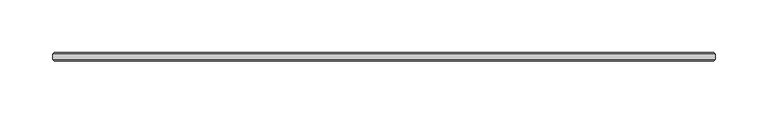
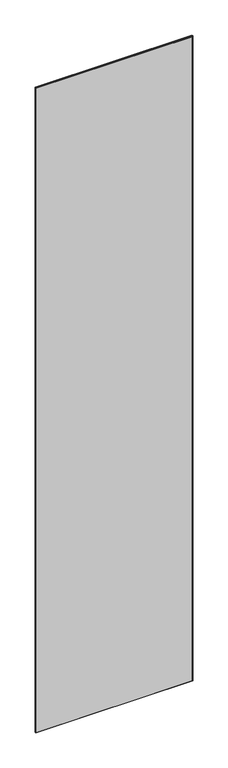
"""IFC4 building model written with IfcOpenShell, lengths in millimetres: plate geometry, 1-AMG-1-Панель одинарный витраж 8, 10 : Смещение 32 Толщина 8mm."""

import ifcopenshell
import ifcopenshell.guid

model = None  # the IFC model being written
_history = None  # IfcOwnerHistory: only IFC2X3 demands one
_inside = {}  # id of a spatial element -> (the spatial element, [elements in it])
_under = {}  # id of a project, library or spatial element -> (it, [spatial elements below it])
_declared = {}  # id of a project -> (the project, [libraries it declares])
_typed = {}  # id of a type object -> (the type object, [elements of that type])
_made_of = {}  # id of a material, layer set ... -> (it, [elements and type objects made of it])


def new_model(schema):
    """Start an empty IFC model of exactly this schema.

    Asked for "IFC4X3", IfcOpenShell would pick the latest addendum, in which some entities
    have other attributes; the version numbers below select the first issue.
    IFC2X3 requires an IfcOwnerHistory on every rooted entity: one is made here for all.
    """
    global model, _history
    if schema == "IFC4X3":
        model = ifcopenshell.file(schema_version=(4, 3, 0, 0))
    else:
        model = ifcopenshell.file(schema=schema)
    _inside.clear()
    _under.clear()
    _declared.clear()
    _typed.clear()
    _made_of.clear()
    _history = None
    if model.schema == "IFC2X3":
        org = make("IfcOrganization", Name="unknown")
        user = make(
            "IfcPersonAndOrganization",
            ThePerson=make("IfcPerson", FamilyName="unknown"),
            TheOrganization=org,
        )
        app = make(
            "IfcApplication",
            ApplicationDeveloper=org,
            Version="unknown",
            ApplicationFullName="unknown",
            ApplicationIdentifier="unknown",
        )
        _history = make(
            "IfcOwnerHistory",
            OwningUser=user,
            OwningApplication=app,
            ChangeAction="ADDED",
            CreationDate=0,
        )
    return model


def make(cls, **values):
    """One entity of the class cls with the attributes given. An attribute that is None is left unset."""
    return model.create_entity(
        cls, **{name: value for name, value in values.items() if value is not None}
    )


def rooted(cls, **values):
    """An entity with a GlobalId (a new one), such as an element, a storey or a relation."""
    return make(cls, GlobalId=ifcopenshell.guid.new(), OwnerHistory=_history, **values)


def si_unit(unit_type, name, prefix=None):
    """IfcSIUnit, for example si_unit("LENGTHUNIT", "METRE", prefix="MILLI")."""
    return make("IfcSIUnit", UnitType=unit_type, Prefix=prefix, Name=name)


def assignment(units):
    """IfcUnitAssignment: the units of a project."""
    return None if units is None else make("IfcUnitAssignment", Units=units)


def point(xyz):
    """IfcCartesianPoint."""
    return None if xyz is None else make("IfcCartesianPoint", Coordinates=xyz)


def direction(xyz):
    """IfcDirection."""
    return None if xyz is None else make("IfcDirection", DirectionRatios=xyz)


def frame(location, z_axis=None, x_axis=None):
    """IfcAxis2Placement3D, a coordinate frame: its origin and axes. An axis left out is left unset."""
    return make(
        "IfcAxis2Placement3D",
        Location=point(location),
        Axis=direction(z_axis),
        RefDirection=direction(x_axis),
    )


def origin():
    """The frame at (0, 0, 0) with its axes left unset."""
    return frame((0.0, 0.0, 0.0))


def place(relative_to, where):
    """IfcLocalPlacement: puts the frame where relative to a parent placement (None: the world)."""
    return make(
        "IfcLocalPlacement", PlacementRelTo=relative_to, RelativePlacement=where
    )


def context(
    kind, dimensions, precision=None, world=None, true_north=None, identifier=None
):
    """IfcGeometricRepresentationContext, for example the 3D "Model" context."""
    return make(
        "IfcGeometricRepresentationContext",
        ContextIdentifier=identifier,
        ContextType=kind,
        CoordinateSpaceDimension=dimensions,
        Precision=precision,
        WorldCoordinateSystem=world,
        TrueNorth=true_north,
    )


def project(units=None, contexts=None):
    """IfcProject with its units and contexts."""
    return rooted(
        "IfcProject",
        Name="project",
        RepresentationContexts=contexts,
        UnitsInContext=assignment(units),
    )


def spatial(cls, under=None, at=None, **own):
    """A site, building, storey or space (cls), placed at a placement, below another one or the project."""
    s = rooted(cls, ObjectPlacement=at, **own)
    if under is not None:
        _under.setdefault(under.id(), (under, []))[1].append(s)
    return s


def faces_of(points, faces, orient=None, outer=None):
    """IfcFace entities. A face is a list of loops; a loop is a list of indices into points, from 0.

    orient and outer hold one flag for each loop. By default every Orientation is true, the
    first loop of a face is its IfcFaceOuterBound and the others are IfcFaceBound.
    """
    made = []
    for i, loops in enumerate(faces):
        bounds = []
        for j, loop in enumerate(loops):
            is_outer = j == 0 if outer is None else outer[i][j]
            bounds.append(
                make(
                    "IfcFaceOuterBound" if is_outer else "IfcFaceBound",
                    Bound=make("IfcPolyLoop", Polygon=[points[k] for k in loop]),
                    Orientation=True if orient is None else orient[i][j],
                )
            )
        made.append(make("IfcFace", Bounds=bounds))
    return made


def faceted_brep(points, faces, orient=None, outer=None, voids=None):
    """IfcFacetedBrep: a solid bounded by flat faces; with voids (closed shells), ...WithVoids."""
    shared = [point(p) for p in points]
    hull = make("IfcClosedShell", CfsFaces=faces_of(shared, faces, orient, outer))
    if voids is None:
        return make("IfcFacetedBrep", Outer=hull)
    return make(
        "IfcFacetedBrepWithVoids",
        Outer=hull,
        Voids=[
            make(cls, CfsFaces=faces_of(shared, fs, o, b)) for cls, fs, o, b in voids
        ],
    )


def shape(context_of_items, identifier, shape_type, items):
    """IfcShapeRepresentation: the items that make up one representation, for example the "Body"."""
    return make(
        "IfcShapeRepresentation",
        ContextOfItems=context_of_items,
        RepresentationIdentifier=identifier,
        RepresentationType=shape_type,
        Items=items,
    )


def source(mapping_origin, context_of_items, identifier, shape_type, items):
    """IfcRepresentationMap: a shape defined once, which mapped items show again and again."""
    return make(
        "IfcRepresentationMap",
        MappingOrigin=mapping_origin,
        MappedRepresentation=shape(context_of_items, identifier, shape_type, items),
    )


def transform(
    local_origin,
    x_axis=None,
    y_axis=None,
    z_axis=None,
    scale=None,
    scale2=None,
    scale3=None,
    uniform=True,
):
    """IfcCartesianTransformationOperator3D, or its non-uniform kind. x_axis, y_axis, z_axis: its Axis1, 2, 3."""
    if uniform:
        return make(
            "IfcCartesianTransformationOperator3D",
            Axis1=direction(x_axis),
            Axis2=direction(y_axis),
            LocalOrigin=point(local_origin),
            Scale=scale,
            Axis3=direction(z_axis),
        )
    return make(
        "IfcCartesianTransformationOperator3DnonUniform",
        Axis1=direction(x_axis),
        Axis2=direction(y_axis),
        LocalOrigin=point(local_origin),
        Scale=scale,
        Axis3=direction(z_axis),
        Scale2=scale2,
        Scale3=scale3,
    )


def mapped(mapping_source, mapping_target):
    """IfcMappedItem: shows the shape of a source again, moved by a transform."""
    return make(
        "IfcMappedItem", MappingSource=mapping_source, MappingTarget=mapping_target
    )


def made_of(thing, what):
    """Note that an element or type object is made of a material, layer set ...; save() writes the relation."""
    if what is not None:
        _made_of.setdefault(what.id(), (what, []))[1].append(thing)
    return thing


def element(
    cls,
    number,
    at=None,
    inside=None,
    cuts=None,
    type_object=None,
    material=None,
    context=None,
    identifier="Body",
    shape_type=None,
    held_by="IfcProductDefinitionShape",
    body=None,
    shapes=None,
    **own,
):
    """One element of the class cls, such as IfcWall. Its Tag is "e" and its number.

    at: its placement. inside: the storey or other place that contains it. cuts: it is an
    opening in that element (IfcRelVoidsElement). A single representation is given by context,
    identifier, shape_type and body (its items); several are given by shapes. held_by: the class
    of the entity that holds the representations. save() writes the other relations.
    """
    e = rooted(cls, Tag="e%d" % number, ObjectPlacement=at, **own)
    if body is not None:
        shapes = [shape(context, identifier, shape_type, body)]
    if shapes is not None:
        e.Representation = make(held_by, Representations=shapes)
    if inside is not None:
        _inside.setdefault(inside.id(), (inside, []))[1].append(e)
    if cuts is not None:
        rooted(
            "IfcRelVoidsElement", RelatingBuildingElement=cuts, RelatedOpeningElement=e
        )
    if type_object is not None:
        _typed.setdefault(type_object.id(), (type_object, []))[1].append(e)
    return made_of(e, material)


def aggregate(whole, parts):
    """IfcRelAggregates: a whole, such as a stair, and the parts it consists of."""
    return rooted("IfcRelAggregates", RelatingObject=whole, RelatedObjects=parts)


def save(model, path):
    """Write the relations noted so far, then the file.

    IfcRelAggregates (storeys below a building ...), IfcRelContainedInSpatialStructure (elements
    in a storey), IfcRelDefinesByType, IfcRelAssociatesMaterial and IfcRelDeclares: one each for
    every whole, place, type object, material and project.
    """
    for whole, parts in _under.values():
        aggregate(whole, parts)
    for where, things in _inside.values():
        rooted(
            "IfcRelContainedInSpatialStructure",
            RelatedElements=things,
            RelatingStructure=where,
        )
    for kind, things in _typed.values():
        rooted("IfcRelDefinesByType", RelatedObjects=things, RelatingType=kind)
    for what, things in _made_of.values():
        rooted("IfcRelAssociatesMaterial", RelatedObjects=things, RelatingMaterial=what)
    for by, libraries in _declared.values():
        rooted("IfcRelDeclares", RelatingContext=by, RelatedDefinitions=libraries)
    model.write(path)


def plate_8dcf47b7(model_context):
    return source(origin(), model_context, "Body", "Brep", [
        faceted_brep([(314.6, 29.5038347, 2722.8), (314.6, 34.4961653, 2722.8), (-314.6, 34.4961653, 2722.8), (-314.6, 29.5038347, 2722.8), (314.6, 34.4961653, -7.0), (314.6, 29.5038347, -7.0), (-314.6, 29.5038347, -7.0), (-314.6, 34.4961653, -7.0), (-313.0961653, 36.0, 2721.2961653), (313.0961653, 36.0, 2721.2961653), (313.0961653, 36.0, -5.5039422), (-313.0961653, 36.0, -5.5039422), (313.0961653, 28.0, 2721.2961653), (-313.0961653, 28.0, 2721.2961653), (-313.0961653, 28.0, -5.4961653), (313.0961653, 28.0, -5.4961653)], [[[0, 1, 2, 3]], [[4, 5, 6, 7]], [[8, 9, 10, 11]], [[3, 2, 7, 6]], [[12, 13, 14, 15]], [[1, 0, 5, 4]], [[1, 4, 10, 9]], [[5, 0, 12, 15]], [[7, 2, 8, 11]], [[3, 6, 14, 13]], [[0, 3, 13, 12]], [[2, 1, 9, 8]], [[6, 5, 15, 14]], [[4, 7, 11, 10]]]),
    ])


if __name__ == "__main__":
    model = new_model("IFC4")
    model_context = context("Model", 3, world=origin())
    ifc_project = project(units=[si_unit("LENGTHUNIT", "METRE", prefix="MILLI")], contexts=[model_context])
    site = spatial("IfcSite", under=ifc_project)
    building = spatial("IfcBuilding", under=site)
    placement = place(None, origin())
    plate_shape = plate_8dcf47b7(model_context)
    element("IfcPlate", 1, ObjectType="1-AMG-1-Панель одинарный витраж 8, 10 : Смещение 32 Толщина 8mm", at=placement, inside=building, context=model_context, shape_type="MappedRepresentation", body=[
        mapped(plate_shape, transform((0.0, 0.0, 0.0), x_axis=(1.0, 0.0, 0.0), y_axis=(0.0, 1.0, 0.0), z_axis=(0.0, 0.0, 1.0))),
    ])
    save(model, "model.ifc")
